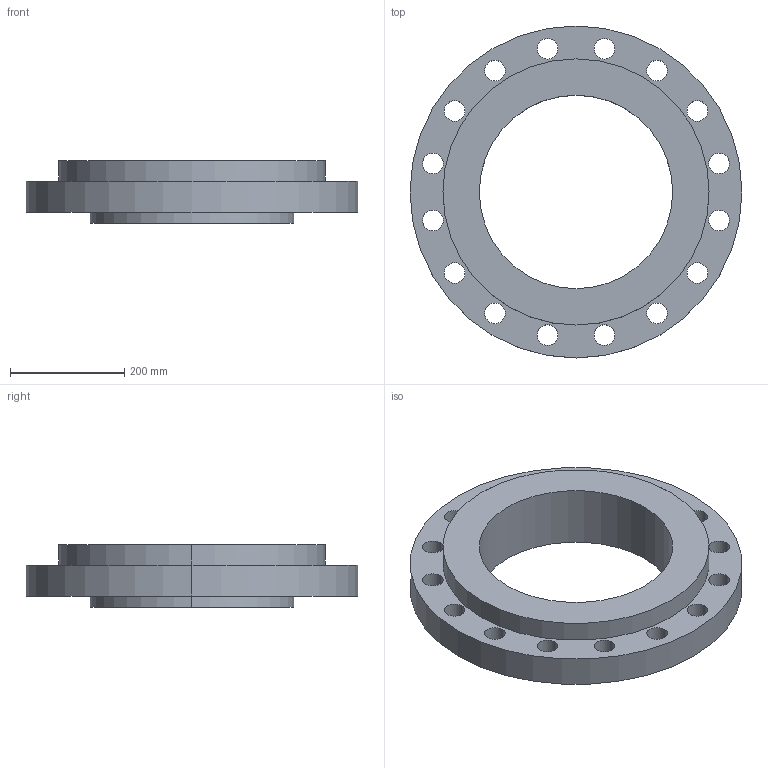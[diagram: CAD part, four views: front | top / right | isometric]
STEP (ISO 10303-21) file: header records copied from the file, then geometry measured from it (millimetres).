
FILE_DESCRIPTION (( 'STEP AP214' ), '1' );
FILE_NAME ('PN40 DN350 Type 04 in 34 - (Type A Face).STEP', '2019-01-05T21:57:33', ( '' ), ( '' ), 'SwSTEP 2.0', 'SolidWorks 2019', '' );
FILE_SCHEMA (( 'AUTOMOTIVE_DESIGN' ));
Length unit declared in the file: millimetre
Products named in the file (1): PN40 DN350 Type 04 in 34 - (Type A Face)
Bounding box: 580 x 580 x 110 mm (x, y, z)
Volume: 9938521.1 mm3; surface area: 878120.7 mm2
Topology: 2 solids, 2 shells, 53 faces, 138 edges, 90 vertices
Faces by surface type: cylinder 42, cone 6, plane 5
Entity records: 1789 total; most frequent: DIRECTION 336, CARTESIAN_POINT 282, ORIENTED_EDGE 276, AXIS2_PLACEMENT_3D 144, EDGE_CURVE 138, CIRCLE 90, VERTEX_POINT 90, EDGE_LOOP 90
